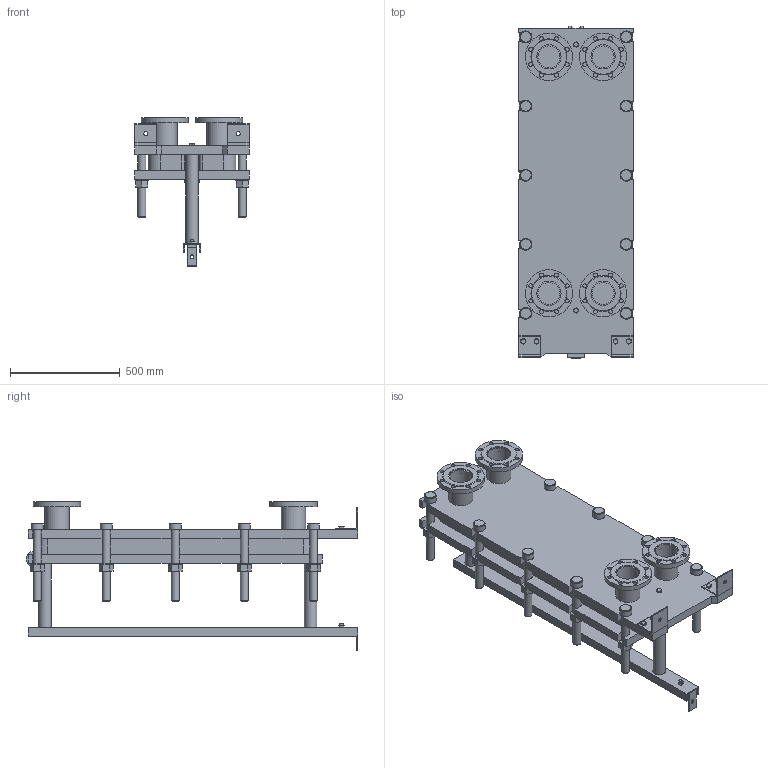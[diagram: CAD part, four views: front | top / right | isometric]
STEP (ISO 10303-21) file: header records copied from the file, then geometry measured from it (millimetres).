
FILE_DESCRIPTION(/* description */ (''),/* implementation_level */ '2;1');
FILE_NAME(/* name */ 'C:\Users\zhuro\Desktop\ENCO\TO\ЭН-04\ЭН-0,5-04-21-1.stp',/* time_stamp */ '2022-06-06T10:45:57+03:00',/* author */ ('zhuro'),/* organization */ (''),/* preprocessor_version */ 'ST-DEVELOPER v18.1',/* originating_system */ 'Autodesk Inventor 2022',/* authorisation */ '');
FILE_SCHEMA (('AUTOMOTIVE_DESIGN { 1 0 10303 214 3 1 1 }'));
Length unit declared in the file: millimetre
Products named in the file (1): ЭН-0,5-04-21-1
Bounding box: 520 x 1510 x 680.5 mm (x, y, z)
Volume: 103160480.1 mm3; surface area: 6618044.5 mm2
Topology: 45 solids, 45 shells, 668 faces, 1611 edges, 1048 vertices
Faces by surface type: plane 457, cylinder 166, cone 39, torus 6
Full cylindrical faces by diameter (mm): 8 x4, 10 x2, 16 x8, 18 x35, 36 x25, 40 x2, 42 x1, 45 x4, 54 x10, 57 x2, 60 x10, 68 x2, 100 x4, 110 x8, 215 x4
Entity records: 23607 total; most frequent: CARTESIAN_POINT 7348, DIRECTION 3371, ORIENTED_EDGE 3142, EDGE_CURVE 1571, AXIS2_PLACEMENT_3D 1199, VERTEX_POINT 1044, LINE 973, VECTOR 973
